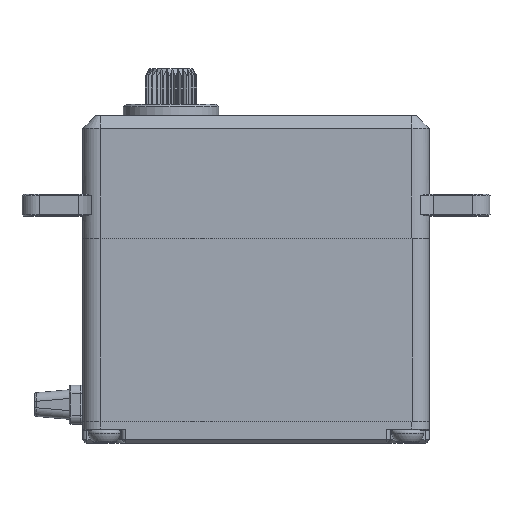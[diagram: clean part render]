
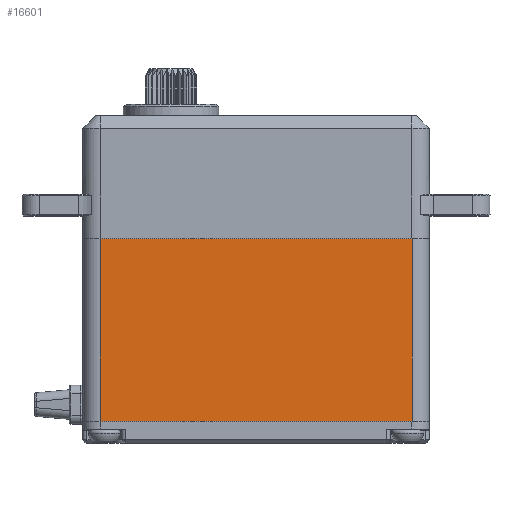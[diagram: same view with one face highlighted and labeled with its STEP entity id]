
A CAD part, top view. The second image highlights one B-rep face of the part: STEP entity #16601.
In plain terms, the highlighted planar face has unit normal (0, 0, 1).
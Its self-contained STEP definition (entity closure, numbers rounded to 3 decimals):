
#5507=DIRECTION('',(0.,1.,0.));
#5508=VECTOR('',#5507,21.08);
#5509=CARTESIAN_POINT('',(18.,-21.09,10.));
#5510=LINE('',#5509,#5508);
#5540=DIRECTION('',(1.,0.,0.));
#5541=VECTOR('',#5540,36.);
#5542=CARTESIAN_POINT('',(-18.,-21.09,10.));
#5543=LINE('',#5542,#5541);
#5544=DIRECTION('',(0.,1.,0.));
#5545=VECTOR('',#5544,21.08);
#5546=CARTESIAN_POINT('',(-18.,-21.09,10.));
#5547=LINE('',#5546,#5545);
#5548=DIRECTION('',(1.,0.,0.));
#5549=VECTOR('',#5548,36.);
#5550=CARTESIAN_POINT('',(-18.,-0.01,10.));
#5551=LINE('',#5550,#5549);
#9478=CARTESIAN_POINT('',(-18.,-0.01,10.));
#9479=CARTESIAN_POINT('',(18.,-0.01,10.));
#9480=VERTEX_POINT('',#9478);
#9481=VERTEX_POINT('',#9479);
#9538=CARTESIAN_POINT('',(-18.,-21.09,10.));
#9539=CARTESIAN_POINT('',(18.,-21.09,10.));
#9540=VERTEX_POINT('',#9538);
#9541=VERTEX_POINT('',#9539);
#16590=CARTESIAN_POINT('',(-20.,0.,10.));
#16591=DIRECTION('',(0.,0.,1.));
#16592=DIRECTION('',(1.,0.,0.));
#16593=AXIS2_PLACEMENT_3D('',#16590,#16591,#16592);
#16594=PLANE('',#16593);
#16595=ORIENTED_EDGE('',*,*,#14960,.F.);
#16596=ORIENTED_EDGE('',*,*,#15031,.T.);
#16597=ORIENTED_EDGE('',*,*,#14468,.T.);
#16598=ORIENTED_EDGE('',*,*,#16550,.F.);
#16599=EDGE_LOOP('',(#16595,#16596,#16597,#16598));
#16600=FACE_OUTER_BOUND('',#16599,.F.);
#14468=EDGE_CURVE('',#9480,#9481,#5551,.T.);
#14960=EDGE_CURVE('',#9540,#9541,#5543,.T.);
#15031=EDGE_CURVE('',#9540,#9480,#5547,.T.);
#16550=EDGE_CURVE('',#9541,#9481,#5510,.T.);
#16601=ADVANCED_FACE('',(#16600),#16594,.T.);
